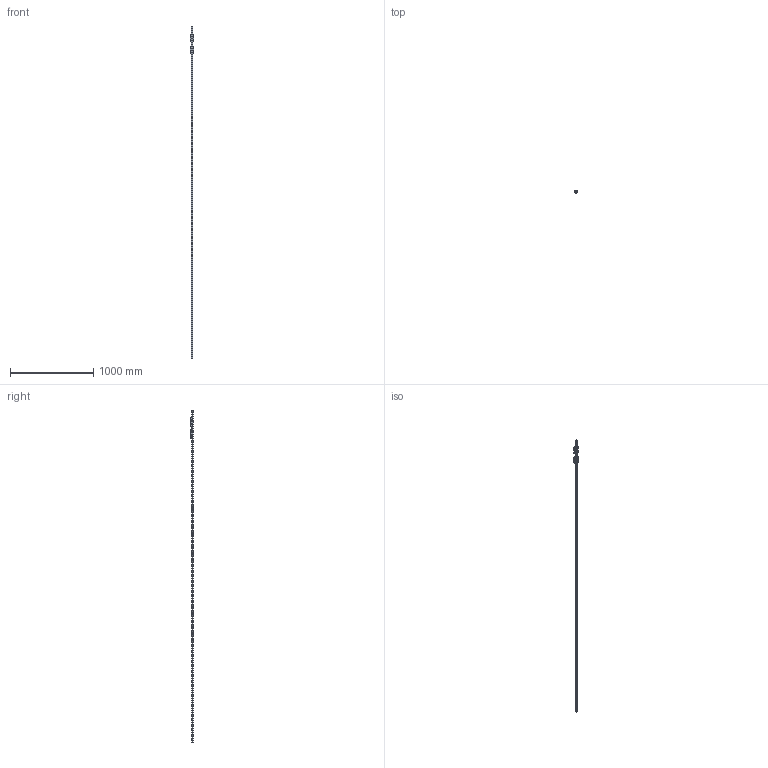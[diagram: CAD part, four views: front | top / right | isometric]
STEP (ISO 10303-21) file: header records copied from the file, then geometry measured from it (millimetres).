
FILE_DESCRIPTION((''),'2;1');
FILE_NAME('BRS25-U0_CUSTOMER_ASM_1_ASM_ASM','2020-11-25T09:23:20',('TWVS2025'),(''),'CREO PARAMETRIC BY PTC INC, 2018420','CREO PARAMETRIC BY PTC INC, 2018420','');
FILE_SCHEMA(('CONFIG_CONTROL_DESIGN'));
Products named in the file (5): BC-BRC25-U0_ASM_1_1; BRR25_CUSTOMER_1_1_1_2_3_4_5_6; BC-BRD25-U0_ASM_ASM_1_ASM; BRS25-U0_CUSTOMER_ASM_1_ASM_1_ASM; BRS25-U0_CUSTOMER_ASM_1_ASM_ASM
Assembly tree (4 placements, depth 3):
  BRS25-U0_CUSTOMER_ASM_1_ASM_ASM
    BRS25-U0_CUSTOMER_ASM_1_ASM_1_ASM
      BC-BRC25-U0_ASM_1_1
      BRR25_CUSTOMER_1_1_1_2_3_4_5_6
      BC-BRD25-U0_ASM_ASM_1_ASM
Bounding box: 47.95 x 33 x 4000 mm (x, y, z)
Volume: 1755135.1 mm3; surface area: 482444.8 mm2
Topology: 2 solids, 29 shells, 4719 faces, 13418 edges, 8822 vertices
Faces by surface type: plane 2702, cylinder 1353, bspline 240, cone 192, torus 150, sphere 82
Entity records: 219384 total; most frequent: CARTESIAN_POINT 99428, ORIENTED_EDGE 26631, DIRECTION 22474, EDGE_CURVE 13350, VERTEX_POINT 8818, VECTOR 8258, LINE 8258, AXIS2_PLACEMENT_3D 7108
